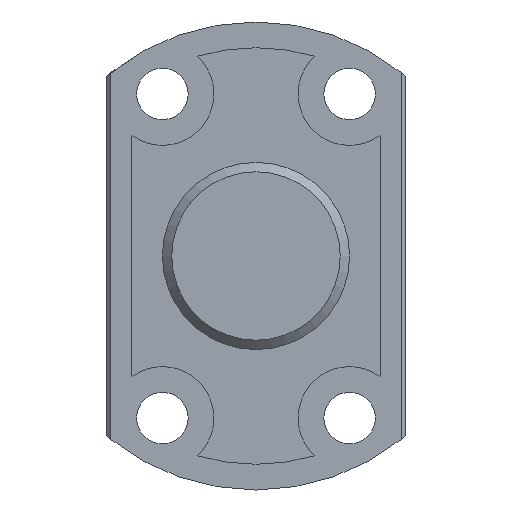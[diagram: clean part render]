
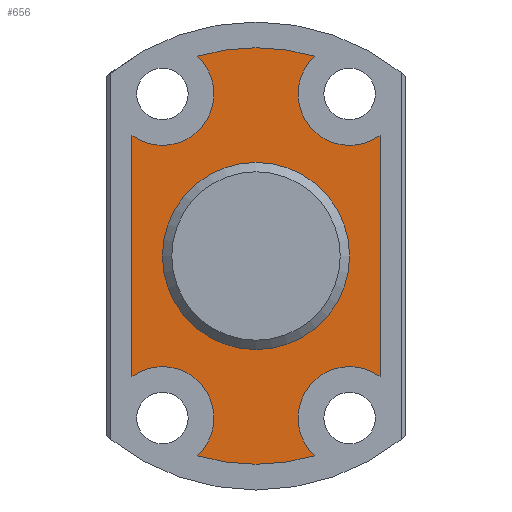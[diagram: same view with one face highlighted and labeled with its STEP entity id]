
A CAD part, left-side view. The second image highlights one B-rep face of the part: STEP entity #656.
In plain terms, the highlighted planar face has unit normal (-1, 0, 0).
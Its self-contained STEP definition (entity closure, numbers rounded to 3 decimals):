
#568=CARTESIAN_POINT('',(204.25,0.,0.0));
#569=DIRECTION('',(1.0,0.0,0.0));
#570=DIRECTION('',(0.0,0.0,-1.0));
#571=AXIS2_PLACEMENT_3D('',#568,#569,#570);
#572=PLANE('',#571);
#573=CARTESIAN_POINT('',(204.25,-13.25,-12.883));
#574=VERTEX_POINT('',#573);
#575=CARTESIAN_POINT('',(204.25,-6.258,-21.352));
#576=VERTEX_POINT('',#575);
#577=CARTESIAN_POINT('',(204.25,-10.,-17.321));
#578=DIRECTION('',(-1.0,0.0,0.0));
#579=DIRECTION('',(0.0,1.0,0.0));
#580=AXIS2_PLACEMENT_3D('',#577,#578,#579);
#581=CIRCLE('',#580,5.5);
#582=EDGE_CURVE('',#574,#576,#581,.T.);
#583=ORIENTED_EDGE('',*,*,#582,.F.);
#584=CARTESIAN_POINT('',(204.25,-13.25,12.883));
#585=VERTEX_POINT('',#584);
#586=CARTESIAN_POINT('',(204.25,-13.25,-12.883));
#587=DIRECTION('',(0.0,0.0,1.0));
#588=VECTOR('',#587,25.767);
#589=LINE('',#586,#588);
#590=EDGE_CURVE('',#574,#585,#589,.T.);
#591=ORIENTED_EDGE('',*,*,#590,.T.);
#592=CARTESIAN_POINT('',(204.25,-6.258,21.352));
#593=VERTEX_POINT('',#592);
#594=CARTESIAN_POINT('',(204.25,-10.,17.321));
#595=DIRECTION('',(-1.0,0.0,0.0));
#596=DIRECTION('',(0.0,1.0,0.0));
#597=AXIS2_PLACEMENT_3D('',#594,#595,#596);
#598=CIRCLE('',#597,5.5);
#599=EDGE_CURVE('',#593,#585,#598,.T.);
#600=ORIENTED_EDGE('',*,*,#599,.F.);
#601=CARTESIAN_POINT('',(204.25,6.258,21.352));
#602=VERTEX_POINT('',#601);
#603=CARTESIAN_POINT('',(204.25,0.0,0.0));
#604=DIRECTION('',(-1.0,0.0,0.0));
#605=DIRECTION('',(0.0,1.0,0.0));
#606=AXIS2_PLACEMENT_3D('',#603,#604,#605);
#607=CIRCLE('',#606,22.25);
#608=EDGE_CURVE('',#593,#602,#607,.T.);
#609=ORIENTED_EDGE('',*,*,#608,.T.);
#610=CARTESIAN_POINT('',(204.25,13.25,12.883));
#611=VERTEX_POINT('',#610);
#612=CARTESIAN_POINT('',(204.25,10.,17.321));
#613=DIRECTION('',(-1.0,0.0,0.0));
#614=DIRECTION('',(0.0,1.0,0.0));
#615=AXIS2_PLACEMENT_3D('',#612,#613,#614);
#616=CIRCLE('',#615,5.5);
#617=EDGE_CURVE('',#611,#602,#616,.T.);
#618=ORIENTED_EDGE('',*,*,#617,.F.);
#619=CARTESIAN_POINT('',(204.25,13.25,-12.883));
#620=VERTEX_POINT('',#619);
#621=CARTESIAN_POINT('',(204.25,13.25,12.883));
#622=DIRECTION('',(0.0,0.0,-1.0));
#623=VECTOR('',#622,25.767);
#624=LINE('',#621,#623);
#625=EDGE_CURVE('',#611,#620,#624,.T.);
#626=ORIENTED_EDGE('',*,*,#625,.T.);
#627=CARTESIAN_POINT('',(204.25,6.258,-21.352));
#628=VERTEX_POINT('',#627);
#629=CARTESIAN_POINT('',(204.25,10.,-17.321));
#630=DIRECTION('',(-1.0,0.0,0.0));
#631=DIRECTION('',(0.0,1.0,0.0));
#632=AXIS2_PLACEMENT_3D('',#629,#630,#631);
#633=CIRCLE('',#632,5.5);
#634=EDGE_CURVE('',#628,#620,#633,.T.);
#635=ORIENTED_EDGE('',*,*,#634,.F.);
#636=CARTESIAN_POINT('',(204.25,0.0,0.0));
#637=DIRECTION('',(-1.0,0.0,0.0));
#638=DIRECTION('',(0.0,1.0,0.0));
#639=AXIS2_PLACEMENT_3D('',#636,#637,#638);
#640=CIRCLE('',#639,22.25);
#641=EDGE_CURVE('',#628,#576,#640,.T.);
#642=ORIENTED_EDGE('',*,*,#641,.T.);
#643=EDGE_LOOP('',(#583,#591,#600,#609,#618,#626,#635,#642));
#644=FACE_OUTER_BOUND('',#643,.T.);
#645=CARTESIAN_POINT('',(204.25,0.,10.0));
#646=VERTEX_POINT('',#645);
#647=CARTESIAN_POINT('',(204.25,0.0,0.0));
#648=DIRECTION('',(-1.0,0.0,0.0));
#649=DIRECTION('',(0.0,-1.0,0.0));
#650=AXIS2_PLACEMENT_3D('',#647,#648,#649);
#651=CIRCLE('',#650,10.0);
#652=EDGE_CURVE('',#646,#646,#651,.T.);
#653=ORIENTED_EDGE('',*,*,#652,.F.);
#654=EDGE_LOOP('',(#653));
#655=FACE_BOUND('',#654,.T.);
#656=ADVANCED_FACE('',(#644,#655),#572,.F.);
